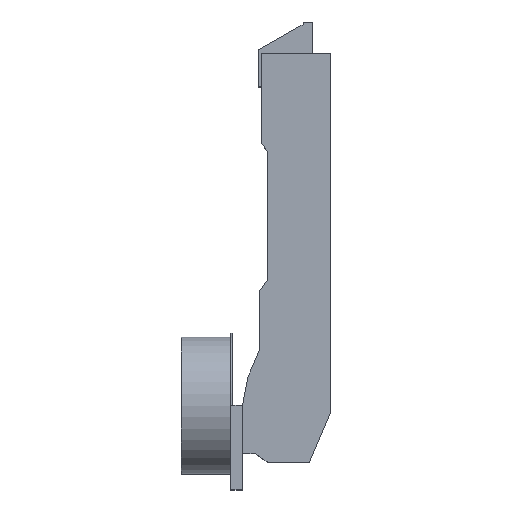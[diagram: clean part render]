
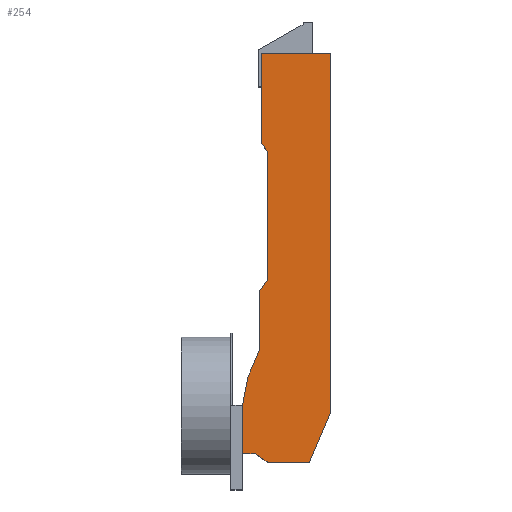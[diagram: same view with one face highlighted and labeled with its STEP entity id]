
A CAD part, top view. The second image highlights one B-rep face of the part: STEP entity #254.
In plain terms, the highlighted planar face has unit normal (0, 0, 1).
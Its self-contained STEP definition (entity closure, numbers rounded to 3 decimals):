
#85 = CARTESIAN_POINT ( 'NONE',  ( 22.25, -1.744, 8.5 ) ) ;
#91 = DIRECTION ( 'NONE',  ( 0.392, 0.92, 0. ) ) ;
#92 = DIRECTION ( 'NONE',  ( 0., 1., 0. ) ) ;
#93 = CARTESIAN_POINT ( 'NONE',  ( 22.25, -1.744, 8.5 ) ) ;
#96 = CARTESIAN_POINT ( 'NONE',  ( 16.783, -14.594, 8.5 ) ) ;
#152 = CARTESIAN_POINT ( 'NONE',  ( 3.01, -12.294, 8.5 ) ) ;
#153 = DIRECTION ( 'NONE',  ( 0.819, -0.574, 0. ) ) ;
#157 = DIRECTION ( 'NONE',  ( 1., 0., 0. ) ) ;
#164 = DIRECTION ( 'NONE',  ( 0., -1., 0. ) ) ;
#172 = CARTESIAN_POINT ( 'NONE',  ( 6.295, -14.594, 8.5 ) ) ;
#254 = ADVANCED_FACE ( 'NONE', ( #1332 ), #694, .T. ) ;
#278 = VERTEX_POINT ( 'NONE', #843 ) ;
#280 = VERTEX_POINT ( 'NONE', #847 ) ;
#289 = VERTEX_POINT ( 'NONE', #668 ) ;
#310 = VERTEX_POINT ( 'NONE', #704 ) ;
#315 = VERTEX_POINT ( 'NONE', #913 ) ;
#320 = VERTEX_POINT ( 'NONE', #871 ) ;
#326 = VERTEX_POINT ( 'NONE', #709 ) ;
#334 = VERTEX_POINT ( 'NONE', #917 ) ;
#337 = VERTEX_POINT ( 'NONE', #923 ) ;
#343 = VERTEX_POINT ( 'NONE', #946 ) ;
#345 = VERTEX_POINT ( 'NONE', #949 ) ;
#354 = VERTEX_POINT ( 'NONE', #965 ) ;
#357 = VERTEX_POINT ( 'NONE', #941 ) ;
#379 = VECTOR ( 'NONE', #92, 1000. ) ;
#380 = LINE ( 'NONE', #93, #379 ) ;
#381 = VECTOR ( 'NONE', #91, 1000. ) ;
#382 = LINE ( 'NONE', #96, #381 ) ;
#422 = VECTOR ( 'NONE', #157, 1000. ) ;
#425 = VECTOR ( 'NONE', #153, 1000. ) ;
#426 = LINE ( 'NONE', #152, #425 ) ;
#444 = EDGE_CURVE ( 'NONE', #326, #310, #1263, .T. ) ;
#450 = EDGE_CURVE ( 'NONE', #310, #343, #1243, .T. ) ;
#452 = EDGE_CURVE ( 'NONE', #357, #326, #1255, .T. ) ;
#453 = EDGE_CURVE ( 'NONE', #315, #345, #1237, .T. ) ;
#457 = EDGE_CURVE ( 'NONE', #345, #337, #1228, .T. ) ;
#462 = EDGE_CURVE ( 'NONE', #343, #315, #1238, .T. ) ;
#464 = EDGE_CURVE ( 'NONE', #354, #334, #1216, .T. ) ;
#470 = EDGE_CURVE ( 'NONE', #337, #354, #1217, .T. ) ;
#477 = EDGE_CURVE ( 'NONE', #320, #278, #1202, .T. ) ;
#488 = EDGE_CURVE ( 'NONE', #334, #320, #1178, .T. ) ;
#542 = EDGE_CURVE ( 'NONE', #278, #289, #426, .T. ) ;
#544 = EDGE_CURVE ( 'NONE', #289, #280, #1095, .T. ) ;
#575 = AXIS2_PLACEMENT_3D ( 'NONE', #691, #697, #698 ) ;
#589 = EDGE_CURVE ( 'NONE', #280, #1002, #382, .T. ) ;
#591 = EDGE_CURVE ( 'NONE', #1002, #357, #380, .T. ) ;
#668 = CARTESIAN_POINT ( 'NONE',  ( 6.295, -14.594, 8.5 ) ) ;
#691 = CARTESIAN_POINT ( 'NONE',  ( -0.3, -12.294, 8.5 ) ) ;
#694 = PLANE ( 'NONE',  #575 ) ;
#697 = DIRECTION ( 'NONE',  ( 0., 0., 1. ) ) ;
#698 = DIRECTION ( 'NONE',  ( 0., -1., 0. ) ) ;
#704 = CARTESIAN_POINT ( 'NONE',  ( 4.5, 67.242, 8.5 ) ) ;
#707 = DIRECTION ( 'NONE',  ( 0., -1., 0. ) ) ;
#709 = CARTESIAN_POINT ( 'NONE',  ( 4.5, 90.1, 8.5 ) ) ;
#723 = CARTESIAN_POINT ( 'NONE',  ( -0.3, 0., 8.5 ) ) ;
#736 = CARTESIAN_POINT ( 'NONE',  ( 6., 65.1, 8.5 ) ) ;
#738 = DIRECTION ( 'NONE',  ( 0.574, -0.819, 0. ) ) ;
#751 = CARTESIAN_POINT ( 'NONE',  ( 22.25, 90.1, 8.5 ) ) ;
#754 = DIRECTION ( 'NONE',  ( -0.574, -0.819, 0. ) ) ;
#755 = CARTESIAN_POINT ( 'NONE',  ( 4.01, 29.266, 8.5 ) ) ;
#836 = DIRECTION ( 'NONE',  ( -0.19, -0.982, 0. ) ) ;
#839 = CARTESIAN_POINT ( 'NONE',  ( 6., 32.108, 8.5 ) ) ;
#843 = CARTESIAN_POINT ( 'NONE',  ( 3.01, -12.294, 8.5 ) ) ;
#847 = CARTESIAN_POINT ( 'NONE',  ( 16.783, -14.594, 8.5 ) ) ;
#853 = CARTESIAN_POINT ( 'NONE',  ( 1.11, 7.296, 8.5 ) ) ;
#858 = CARTESIAN_POINT ( 'NONE',  ( -0.3, 0., 8.5 ) ) ;
#871 = CARTESIAN_POINT ( 'NONE',  ( -0.3, -12.294, 8.5 ) ) ;
#873 = DIRECTION ( 'NONE',  ( 1., 0., 0. ) ) ;
#875 = CARTESIAN_POINT ( 'NONE',  ( 4.01, 14.096, 8.5 ) ) ;
#876 = DIRECTION ( 'NONE',  ( 0., -1., 0. ) ) ;
#896 = DIRECTION ( 'NONE',  ( -1., 0., 0. ) ) ;
#913 = CARTESIAN_POINT ( 'NONE',  ( 6., 32.108, 8.5 ) ) ;
#917 = CARTESIAN_POINT ( 'NONE',  ( -0.3, 0., 8.5 ) ) ;
#918 = DIRECTION ( 'NONE',  ( 0., -1., 0. ) ) ;
#919 = CARTESIAN_POINT ( 'NONE',  ( -0.3, -12.294, 8.5 ) ) ;
#923 = CARTESIAN_POINT ( 'NONE',  ( 4.01, 14.096, 8.5 ) ) ;
#941 = CARTESIAN_POINT ( 'NONE',  ( 22.25, 90.1, 8.5 ) ) ;
#946 = CARTESIAN_POINT ( 'NONE',  ( 6., 65.1, 8.5 ) ) ;
#949 = CARTESIAN_POINT ( 'NONE',  ( 4.01, 29.266, 8.5 ) ) ;
#956 = CARTESIAN_POINT ( 'NONE',  ( 4.5, 67.242, 8.5 ) ) ;
#965 = CARTESIAN_POINT ( 'NONE',  ( 1.11, 7.296, 8.5 ) ) ;
#1002 = VERTEX_POINT ( 'NONE', #85 ) ;
#1020 = DIRECTION ( 'NONE',  ( -0.392, -0.92, 0. ) ) ;
#1095 = LINE ( 'NONE', #172, #422 ) ;
#1172 = VECTOR ( 'NONE', #164, 1000. ) ;
#1178 = LINE ( 'NONE', #858, #1172 ) ;
#1191 = VECTOR ( 'NONE', #873, 1000. ) ;
#1202 = LINE ( 'NONE', #919, #1191 ) ;
#1203 = VECTOR ( 'NONE', #1020, 1000. ) ;
#1215 = VECTOR ( 'NONE', #836, 1000. ) ;
#1216 = LINE ( 'NONE', #723, #1215 ) ;
#1217 = LINE ( 'NONE', #853, #1203 ) ;
#1218 = VECTOR ( 'NONE', #707, 1000. ) ;
#1227 = VECTOR ( 'NONE', #876, 1000. ) ;
#1228 = LINE ( 'NONE', #875, #1227 ) ;
#1235 = VECTOR ( 'NONE', #754, 1000. ) ;
#1237 = LINE ( 'NONE', #755, #1235 ) ;
#1238 = LINE ( 'NONE', #839, #1218 ) ;
#1239 = VECTOR ( 'NONE', #896, 1000. ) ;
#1242 = VECTOR ( 'NONE', #738, 1000. ) ;
#1243 = LINE ( 'NONE', #736, #1242 ) ;
#1255 = LINE ( 'NONE', #751, #1239 ) ;
#1258 = VECTOR ( 'NONE', #918, 1000. ) ;
#1263 = LINE ( 'NONE', #956, #1258 ) ;
#1332 = FACE_OUTER_BOUND ( 'NONE', #1380, .T. ) ;
#1380 = EDGE_LOOP ( 'NONE', ( #1473, #1474, #1475, #1476, #1477, #1478, #1479, #1480, #1481, #1482, #1483, #1484, #1485, #1486 ) ) ;
#1473 = ORIENTED_EDGE ( 'NONE', *, *, #488, .T. ) ;
#1474 = ORIENTED_EDGE ( 'NONE', *, *, #477, .T. ) ;
#1475 = ORIENTED_EDGE ( 'NONE', *, *, #542, .T. ) ;
#1476 = ORIENTED_EDGE ( 'NONE', *, *, #544, .T. ) ;
#1477 = ORIENTED_EDGE ( 'NONE', *, *, #589, .T. ) ;
#1478 = ORIENTED_EDGE ( 'NONE', *, *, #591, .T. ) ;
#1479 = ORIENTED_EDGE ( 'NONE', *, *, #452, .T. ) ;
#1480 = ORIENTED_EDGE ( 'NONE', *, *, #444, .T. ) ;
#1481 = ORIENTED_EDGE ( 'NONE', *, *, #450, .T. ) ;
#1482 = ORIENTED_EDGE ( 'NONE', *, *, #462, .T. ) ;
#1483 = ORIENTED_EDGE ( 'NONE', *, *, #453, .T. ) ;
#1484 = ORIENTED_EDGE ( 'NONE', *, *, #457, .T. ) ;
#1485 = ORIENTED_EDGE ( 'NONE', *, *, #470, .T. ) ;
#1486 = ORIENTED_EDGE ( 'NONE', *, *, #464, .T. ) ;
